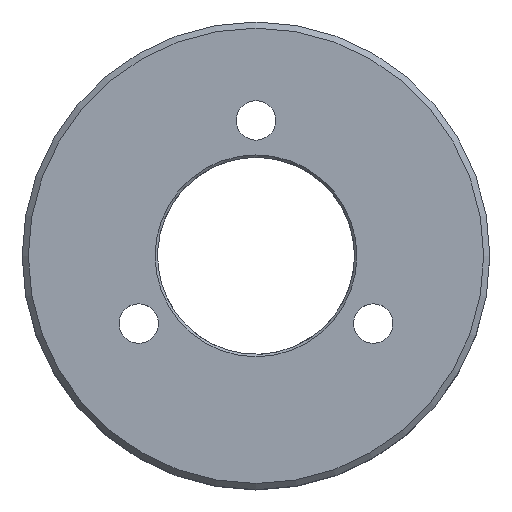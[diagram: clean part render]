
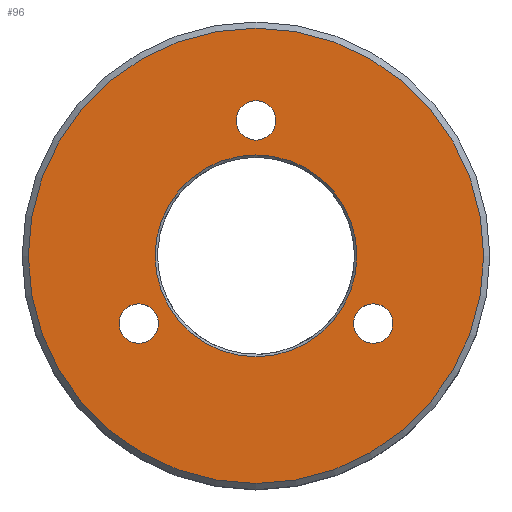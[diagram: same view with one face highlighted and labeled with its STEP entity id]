
A CAD part, top view. The second image highlights one B-rep face of the part: STEP entity #96.
In plain terms, the highlighted planar face has unit normal (0, 0, 1).
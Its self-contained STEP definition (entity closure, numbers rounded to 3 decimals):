
#71=PLANE('',#659);
#96=ADVANCED_FACE('',(#194,#195,#196,#197,#198),#71,.T.);
#194=FACE_BOUND('',#257,.T.);
#195=FACE_BOUND('',#258,.T.);
#196=FACE_BOUND('',#259,.T.);
#197=FACE_BOUND('',#260,.T.);
#198=FACE_BOUND('',#261,.T.);
#257=EDGE_LOOP('',(#366));
#258=EDGE_LOOP('',(#367));
#259=EDGE_LOOP('',(#368));
#260=EDGE_LOOP('',(#369));
#261=EDGE_LOOP('',(#370));
#366=ORIENTED_EDGE('',*,*,#555,.T.);
#367=ORIENTED_EDGE('',*,*,#556,.F.);
#368=ORIENTED_EDGE('',*,*,#557,.F.);
#369=ORIENTED_EDGE('',*,*,#558,.F.);
#370=ORIENTED_EDGE('',*,*,#559,.T.);
#490=VERTEX_POINT('',#1006);
#491=VERTEX_POINT('',#1008);
#492=VERTEX_POINT('',#1010);
#493=VERTEX_POINT('',#1012);
#494=VERTEX_POINT('',#1014);
#555=EDGE_CURVE('',#490,#490,#602,.T.);
#556=EDGE_CURVE('',#491,#491,#603,.T.);
#557=EDGE_CURVE('',#492,#492,#604,.T.);
#558=EDGE_CURVE('',#493,#493,#605,.T.);
#559=EDGE_CURVE('',#494,#494,#606,.T.);
#602=CIRCLE('',#654,18.5);
#603=CIRCLE('',#655,1.6);
#604=CIRCLE('',#656,1.6);
#605=CIRCLE('',#657,1.6);
#606=CIRCLE('',#658,8.2);
#654=AXIS2_PLACEMENT_3D('',#1005,#785,#786);
#655=AXIS2_PLACEMENT_3D('',#1007,#787,#788);
#656=AXIS2_PLACEMENT_3D('',#1009,#789,#790);
#657=AXIS2_PLACEMENT_3D('',#1011,#791,#792);
#658=AXIS2_PLACEMENT_3D('',#1013,#793,#794);
#659=AXIS2_PLACEMENT_3D('',#1015,#795,#796);
#785=DIRECTION('',(0.,0.,1.));
#786=DIRECTION('',(1.,0.,0.));
#787=DIRECTION('',(0.,0.,1.));
#788=DIRECTION('',(1.,0.,0.));
#789=DIRECTION('',(0.,0.,1.));
#790=DIRECTION('',(1.,0.,0.));
#791=DIRECTION('',(0.,0.,1.));
#792=DIRECTION('',(1.,0.,0.));
#793=DIRECTION('',(0.,0.,-1.));
#794=DIRECTION('',(1.,0.,0.));
#795=DIRECTION('',(0.,0.,1.));
#796=DIRECTION('',(1.,0.,0.));
#1005=CARTESIAN_POINT('',(0.,0.,15.));
#1006=CARTESIAN_POINT('',(18.5,0.,15.));
#1007=CARTESIAN_POINT('',(9.526,-5.5,15.));
#1008=CARTESIAN_POINT('',(11.126,-5.5,15.));
#1009=CARTESIAN_POINT('',(-9.526,-5.5,15.));
#1010=CARTESIAN_POINT('',(-7.926,-5.5,15.));
#1011=CARTESIAN_POINT('',(0.,11.,15.));
#1012=CARTESIAN_POINT('',(1.6,11.,15.));
#1013=CARTESIAN_POINT('',(0.,0.,15.));
#1014=CARTESIAN_POINT('',(8.2,0.,15.));
#1015=CARTESIAN_POINT('',(0.,0.,15.));
